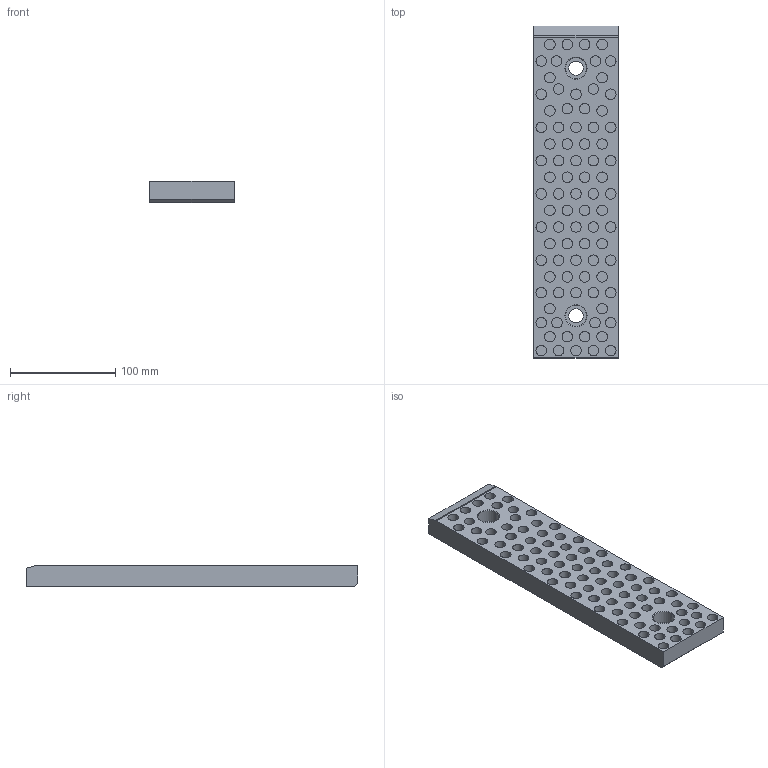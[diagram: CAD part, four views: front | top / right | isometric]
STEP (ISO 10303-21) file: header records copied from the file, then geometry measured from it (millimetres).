
FILE_DESCRIPTION (( 'STEP AP214' ), '1' );
FILE_NAME ('SW224-01-80x315.STEP', '2020-10-14T13:42:48', ( 'August' ), ( '' ), 'SwSTEP 2.0', 'SolidWorks 2018', '' );
FILE_SCHEMA (( 'AUTOMOTIVE_DESIGN' ));
Length unit declared in the file: millimetre
Products named in the file (1): SW224-01-80x315
Bounding box: 80 x 315 x 20 mm (x, y, z)
Volume: 431023.3 mm3; surface area: 91997.6 mm2
Topology: 1 solids, 1 shells, 275 faces, 557 edges, 370 vertices
Faces by surface type: cylinder 177, plane 94, cone 4
Entity records: 7672 total; most frequent: DIRECTION 1467, CARTESIAN_POINT 1203, ORIENTED_EDGE 1114, AXIS2_PLACEMENT_3D 634, EDGE_CURVE 557, VERTEX_POINT 370, EDGE_LOOP 365, CIRCLE 358
